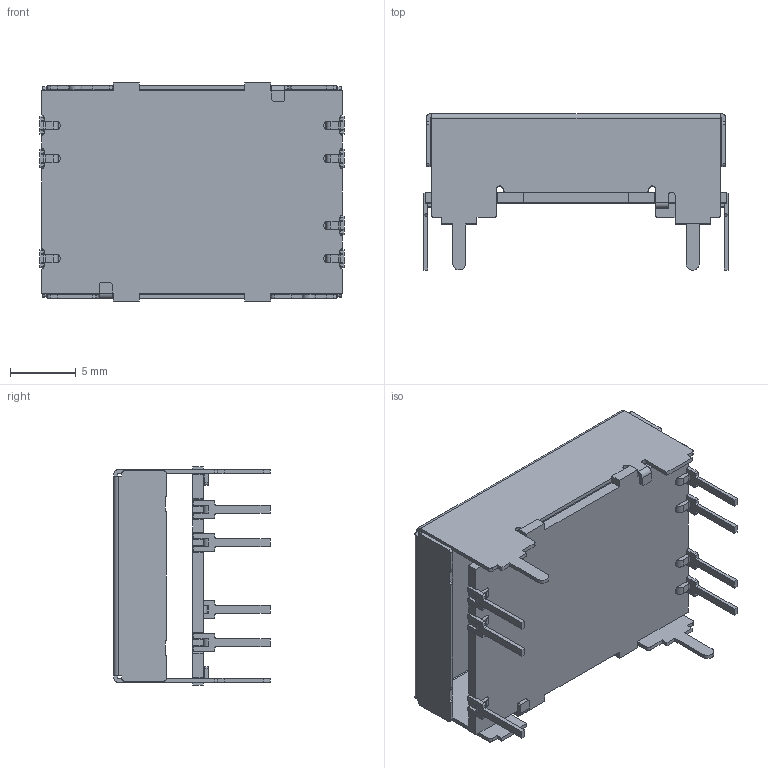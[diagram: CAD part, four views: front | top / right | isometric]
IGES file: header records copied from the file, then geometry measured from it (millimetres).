
Start section: Elysium IGES Interface
Global section: file name: 64HC:\Documents and Settings\KKOBA\デスクトップ\CC_3D_DATA\CC3F.igs; native system: SolidDesigner 14.00B  27-May-2006; preprocessor: OneSpace IGES_3D V2.2; author: Unknown; organization: Unknown; date: 20091007.102032; units: millimetre
Bounding box: 23.16 x 11.9 x 16.6 mm (x, y, z)
Volume: 526.7 mm3; surface area: 2486.5 mm2
Topology: 1 solids, 5 shells, 446 faces, 1502 edges, 996 vertices
Faces by surface type: bspline 446
